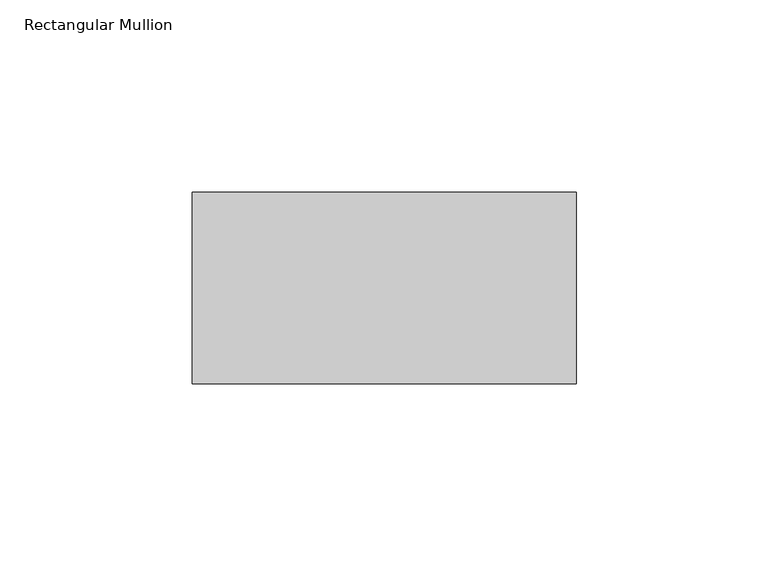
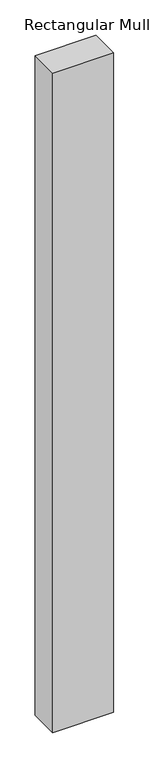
"""IFC4 building model written with IfcOpenShell, lengths in millimetres: member geometry, Rectangular Mullion : Mullion_Curtain Wall_Generic Showcase_50x100mm."""

from ifc_helpers import new_model, si_unit, frame, origin, place, context, project, spatial, polyline, outline, extrude, source, transform, mapped, element, save


def rectangular_mullion_e95caec2(model_context):
    return source(origin(), model_context, "Body", "SweptSolid", [
        extrude(outline(polyline([(0.0, 50.0), (0.0, 0.0), (-100.0, 0.0), (-100.0, 50.0), (0.0, 50.0)])), frame((0.0, 0.0, -1141.6666667), z_axis=(0.0, 0.0, 1.0), x_axis=(1.0, 0.0, 0.0)), (0.0, 0.0, 1.0), 1141.6666667),
    ])


if __name__ == "__main__":
    model = new_model("IFC4")
    model_context = context("Model", 3, world=origin())
    ifc_project = project(units=[si_unit("LENGTHUNIT", "METRE", prefix="MILLI")], contexts=[model_context])
    site = spatial("IfcSite", under=ifc_project)
    building = spatial("IfcBuilding", under=site)
    placement = place(None, origin())
    rectangular_mullion_shape = rectangular_mullion_e95caec2(model_context)
    element("IfcMember", 1, ObjectType="Rectangular Mullion : Mullion_Curtain Wall_Generic Showcase_50x100mm", at=placement, inside=building, context=model_context, shape_type="MappedRepresentation", body=[
        mapped(rectangular_mullion_shape, transform((0.0, 0.0, 0.0), x_axis=(1.0, 0.0, 0.0), y_axis=(0.0, 1.0, 0.0), z_axis=(0.0, 0.0, 1.0))),
    ])
    save(model, "model.ifc")
